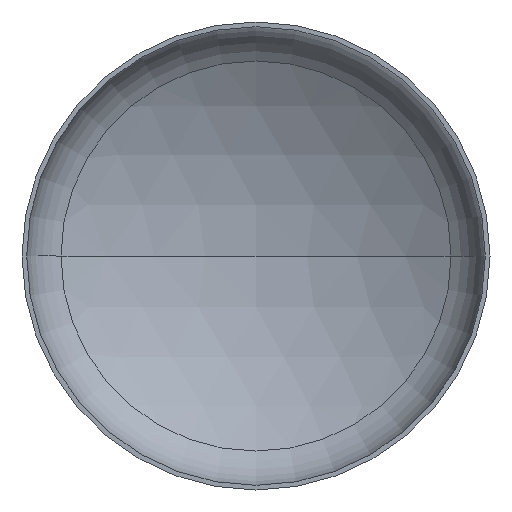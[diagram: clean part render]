
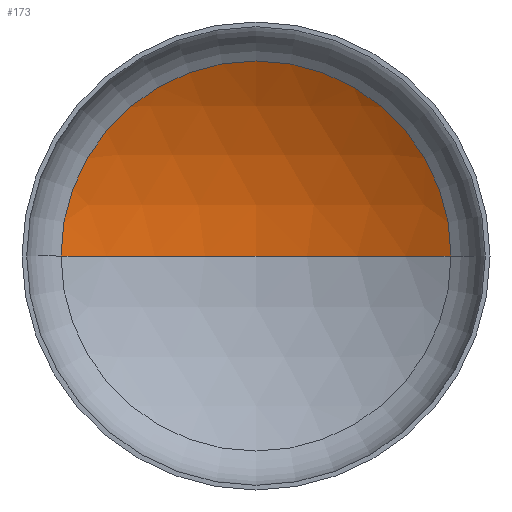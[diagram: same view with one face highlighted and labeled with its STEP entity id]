
A CAD part, front view. The second image highlights one B-rep face of the part: STEP entity #173.
In plain terms, the highlighted spherical face has radius 1440 mm.
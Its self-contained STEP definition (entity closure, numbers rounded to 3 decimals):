
#6 = VERTEX_POINT ( 'NONE', #258 ) ;
#10 = EDGE_LOOP ( 'NONE', ( #20, #11, #108 ) ) ;
#11 = ORIENTED_EDGE ( 'NONE', *, *, #130, .T. ) ;
#14 = DIRECTION ( 'NONE',  ( 1., 0., 0. ) ) ;
#16 = DIRECTION ( 'NONE',  ( 0., 0., 1. ) ) ;
#20 = ORIENTED_EDGE ( 'NONE', *, *, #134, .F. ) ;
#24 = FACE_OUTER_BOUND ( 'NONE', #10, .T. ) ;
#40 = VERTEX_POINT ( 'NONE', #246 ) ;
#58 = AXIS2_PLACEMENT_3D ( 'NONE', #282, #263, #254 ) ;
#82 = AXIS2_PLACEMENT_3D ( 'NONE', #388, #16, #14 ) ;
#87 = AXIS2_PLACEMENT_3D ( 'NONE', #242, #236, #237 ) ;
#88 = AXIS2_PLACEMENT_3D ( 'NONE', #213, #217, #313 ) ;
#108 = ORIENTED_EDGE ( 'NONE', *, *, #128, .T. ) ;
#118 = VERTEX_POINT ( 'NONE', #343 ) ;
#128 = EDGE_CURVE ( 'NONE', #118, #6, #332, .T. ) ;
#130 = EDGE_CURVE ( 'NONE', #40, #118, #273, .T. ) ;
#134 = EDGE_CURVE ( 'NONE', #40, #6, #387, .T. ) ;
#173 = ADVANCED_FACE ( 'NONE', ( #24 ), #189, .F. ) ;
#189 = SPHERICAL_SURFACE ( 'NONE', #58, 1440. ) ;
#213 = CARTESIAN_POINT ( 'NONE',  ( 0., 289.723, 0. ) ) ;
#217 = DIRECTION ( 'NONE',  ( 0., -1., 0. ) ) ;
#236 = DIRECTION ( 'NONE',  ( 0., 0., -1. ) ) ;
#237 = DIRECTION ( 'NONE',  ( -1., 0., 0. ) ) ;
#242 = CARTESIAN_POINT ( 'NONE',  ( 0., -939.372, 0. ) ) ;
#246 = CARTESIAN_POINT ( 'NONE',  ( 0., 500.628, 0. ) ) ;
#254 = DIRECTION ( 'NONE',  ( -1., 0., 0. ) ) ;
#258 = CARTESIAN_POINT ( 'NONE',  ( -750.283, 289.723, 0. ) ) ;
#263 = DIRECTION ( 'NONE',  ( 0., 0., -1. ) ) ;
#273 = CIRCLE ( 'NONE', #87, 1440. ) ;
#282 = CARTESIAN_POINT ( 'NONE',  ( 0., -939.372, 0. ) ) ;
#313 = DIRECTION ( 'NONE',  ( 1., 0., 0. ) ) ;
#332 = CIRCLE ( 'NONE', #88, 750.283 ) ;
#343 = CARTESIAN_POINT ( 'NONE',  ( 750.283, 289.723, 0. ) ) ;
#387 = CIRCLE ( 'NONE', #82, 1440. ) ;
#388 = CARTESIAN_POINT ( 'NONE',  ( 0., -939.372, 0. ) ) ;
